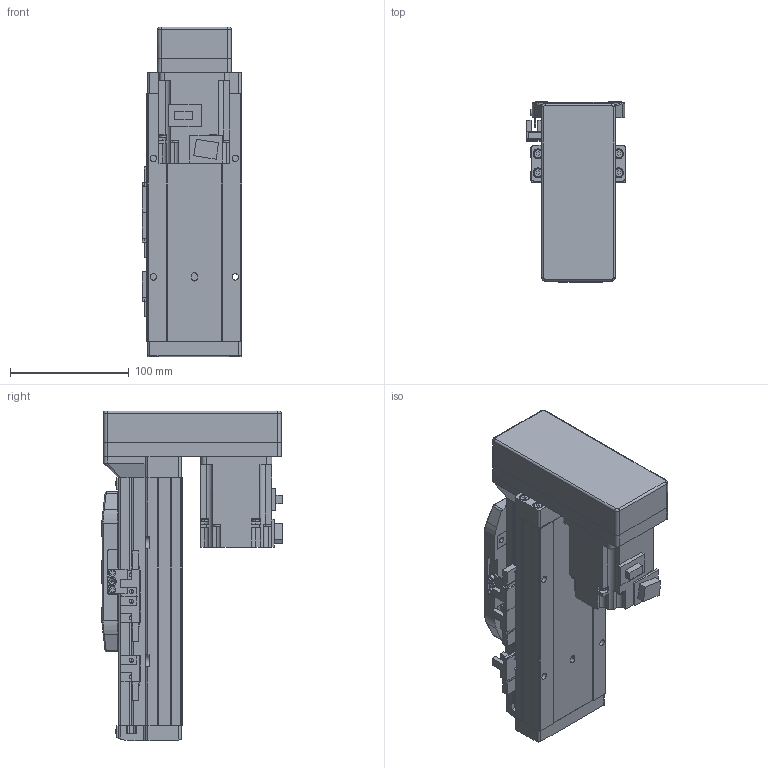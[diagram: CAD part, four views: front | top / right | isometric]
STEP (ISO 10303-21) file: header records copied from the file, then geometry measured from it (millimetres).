
FILE_DESCRIPTION (( 'STEP AP214' ), '1' );
FILE_NAME ('GSH8-50-BM-M20-1.step', '2025-01-07T06:08:27', ( '' ), ( '' ), 'SwSTEP 2.0', 'SolidWorks 2012', '' );
FILE_SCHEMA (( 'AUTOMOTIVE_DESIGN' ));
Length unit declared in the file: millimetre
Products named in the file (5): GSH8-50-BM-M20-1; HG-KR23_200W_Motor; GSH8-GY-004; GSH8-BL-011-50-M20; GSH8-BL-008
Assembly tree (4 placements, depth 2):
  GSH8-50-BM-M20-1
    GSH8-BL-011-50-M20
    GSH8-GY-004
    GSH8-BL-008
    HG-KR23_200W_Motor
Bounding box: 84 x 152.3 x 278.2 mm (x, y, z)
Volume: 1248088.2 mm3; surface area: 247814.1 mm2
Topology: 4 solids, 8 shells, 1070 faces, 2786 edges, 1788 vertices
Faces by surface type: plane 617, cylinder 357, torus 42, cone 26, bspline 24, sphere 4
Entity records: 42138 total; most frequent: CARTESIAN_POINT 9593, DIRECTION 5644, ORIENTED_EDGE 5556, EDGE_CURVE 2778, AXIS2_PLACEMENT_3D 1891, VECTOR 1862, LINE 1862, VERTEX_POINT 1784
